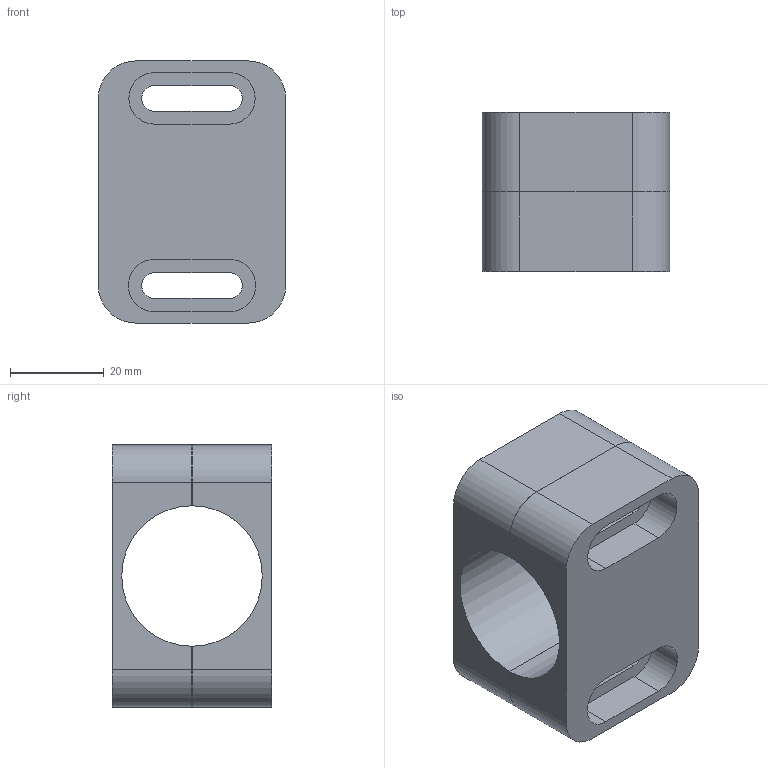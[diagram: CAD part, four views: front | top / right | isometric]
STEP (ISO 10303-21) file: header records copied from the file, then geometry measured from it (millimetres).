
FILE_DESCRIPTION((''),'2;1');
FILE_NAME('2035674','2024-08-01T07:48:43',('s.mayer'),(''),'CREO PARAMETRIC BY PTC INC, 2019292','CREO PARAMETRIC BY PTC INC, 2019292','');
FILE_SCHEMA(('AUTOMOTIVE_DESIGN { 1 0 10303 214 1 1 1 1 }'));
Length unit declared in the file: millimetre
Products named in the file (1): 2035674
Bounding box: 40 x 34.02 x 56 mm (x, y, z)
Surface area: 16233.5 mm2 (no closed solid volume)
Topology: 0 solids, 2 shells, 91 faces, 246 edges, 164 vertices
Faces by surface type: plane 63, cylinder 28
Entity records: 4868 total; most frequent: CARTESIAN_POINT 502, DIRECTION 486, ORIENTED_EDGE 452, PRESENTATION_STYLE_ASSIGNMENT 340, STYLED_ITEM 249, CURVE_STYLE 247, EDGE_CURVE 246, VECTOR 190
